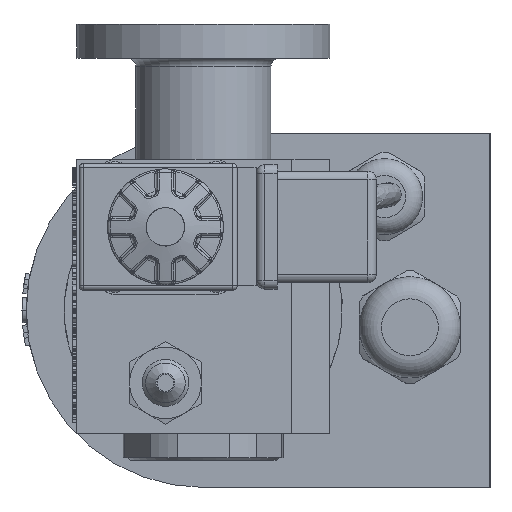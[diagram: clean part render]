
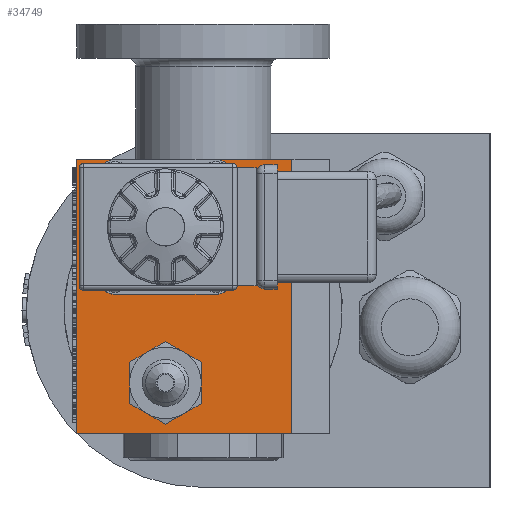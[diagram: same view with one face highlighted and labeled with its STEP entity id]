
A CAD part, left-side view. The second image highlights one B-rep face of the part: STEP entity #34749.
In plain terms, the highlighted planar face has unit normal (-1, 0, 0).
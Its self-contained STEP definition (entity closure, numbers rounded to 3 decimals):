
#1386=CIRCLE('',#36742,3.975);
#1390=CIRCLE('',#36748,3.975);
#1394=CIRCLE('',#36754,3.975);
#1398=CIRCLE('',#36760,3.975);
#1469=CIRCLE('',#36890,8.5);
#1470=CIRCLE('',#36891,8.5);
#1471=CIRCLE('',#36892,8.5);
#1472=CIRCLE('',#36893,8.5);
#1473=CIRCLE('',#36894,8.5);
#1474=CIRCLE('',#36895,8.5);
#2617=FACE_BOUND('',#7442,.T.);
#2618=FACE_BOUND('',#7443,.T.);
#3488=PLANE('',#36889);
#5340=FACE_OUTER_BOUND('',#7441,.T.);
#7441=EDGE_LOOP('',(#31474,#31475,#31476,#31477));
#7442=EDGE_LOOP('',(#31478,#31479,#31480,#31481,#31482,#31483));
#7443=EDGE_LOOP('',(#31484,#31485,#31486,#31487,#31488,#31489,#31490,#31491));
#9905=LINE('',#55942,#12719);
#10262=LINE('',#65708,#13076);
#10264=LINE('',#65722,#13078);
#10266=LINE('',#65734,#13080);
#10268=LINE('',#65746,#13082);
#10280=LINE('',#66788,#13094);
#10281=LINE('',#66789,#13095);
#10282=LINE('',#66790,#13096);
#12719=VECTOR('',#40696,65.);
#13076=VECTOR('',#43243,24.);
#13078=VECTOR('',#43259,24.);
#13080=VECTOR('',#43273,24.);
#13082=VECTOR('',#43287,24.);
#13094=VECTOR('',#43563,65.);
#13095=VECTOR('',#43564,51.);
#13096=VECTOR('',#43565,51.);
#16555=VERTEX_POINT('',#55932);
#16559=VERTEX_POINT('',#55940);
#17307=VERTEX_POINT('',#65706);
#17308=VERTEX_POINT('',#65707);
#17311=VERTEX_POINT('',#65715);
#17313=VERTEX_POINT('',#65721);
#17315=VERTEX_POINT('',#65727);
#17317=VERTEX_POINT('',#65733);
#17319=VERTEX_POINT('',#65739);
#17321=VERTEX_POINT('',#65745);
#17382=VERTEX_POINT('',#66786);
#17383=VERTEX_POINT('',#66787);
#17384=VERTEX_POINT('',#66791);
#17385=VERTEX_POINT('',#66792);
#17386=VERTEX_POINT('',#66794);
#17387=VERTEX_POINT('',#66796);
#17388=VERTEX_POINT('',#66798);
#17389=VERTEX_POINT('',#66800);
#20717=EDGE_CURVE('',#16555,#16559,#9905,.T.);
#21994=EDGE_CURVE('',#17307,#17308,#10262,.T.);
#21998=EDGE_CURVE('',#17308,#17311,#1386,.T.);
#22001=EDGE_CURVE('',#17311,#17313,#10264,.T.);
#22004=EDGE_CURVE('',#17313,#17315,#1390,.T.);
#22007=EDGE_CURVE('',#17315,#17317,#10266,.T.);
#22010=EDGE_CURVE('',#17317,#17319,#1394,.T.);
#22013=EDGE_CURVE('',#17319,#17321,#10268,.T.);
#22016=EDGE_CURVE('',#17321,#17307,#1398,.T.);
#22143=EDGE_CURVE('',#17382,#17383,#10280,.T.);
#22144=EDGE_CURVE('',#17382,#16555,#10281,.T.);
#22145=EDGE_CURVE('',#16559,#17383,#10282,.T.);
#22146=EDGE_CURVE('',#17384,#17385,#1469,.T.);
#22147=EDGE_CURVE('',#17385,#17386,#1470,.T.);
#22148=EDGE_CURVE('',#17386,#17387,#1471,.T.);
#22149=EDGE_CURVE('',#17387,#17388,#1472,.T.);
#22150=EDGE_CURVE('',#17388,#17389,#1473,.T.);
#22151=EDGE_CURVE('',#17389,#17384,#1474,.T.);
#31474=ORIENTED_EDGE('',*,*,#22143,.F.);
#31475=ORIENTED_EDGE('',*,*,#22144,.T.);
#31476=ORIENTED_EDGE('',*,*,#20717,.T.);
#31477=ORIENTED_EDGE('',*,*,#22145,.T.);
#31478=ORIENTED_EDGE('',*,*,#22146,.T.);
#31479=ORIENTED_EDGE('',*,*,#22147,.T.);
#31480=ORIENTED_EDGE('',*,*,#22148,.T.);
#31481=ORIENTED_EDGE('',*,*,#22149,.T.);
#31482=ORIENTED_EDGE('',*,*,#22150,.T.);
#31483=ORIENTED_EDGE('',*,*,#22151,.T.);
#31484=ORIENTED_EDGE('',*,*,#21994,.T.);
#31485=ORIENTED_EDGE('',*,*,#21998,.T.);
#31486=ORIENTED_EDGE('',*,*,#22001,.T.);
#31487=ORIENTED_EDGE('',*,*,#22004,.T.);
#31488=ORIENTED_EDGE('',*,*,#22007,.T.);
#31489=ORIENTED_EDGE('',*,*,#22010,.T.);
#31490=ORIENTED_EDGE('',*,*,#22013,.T.);
#31491=ORIENTED_EDGE('',*,*,#22016,.T.);
#34749=ADVANCED_FACE('',(#5340,#2617,#2618),#3488,.T.);
#36742=AXIS2_PLACEMENT_3D('',#65716,#43251,#43252);
#36748=AXIS2_PLACEMENT_3D('',#65728,#43265,#43266);
#36754=AXIS2_PLACEMENT_3D('',#65740,#43279,#43280);
#36760=AXIS2_PLACEMENT_3D('',#65751,#43293,#43294);
#36889=AXIS2_PLACEMENT_3D('',#66785,#43561,#43562);
#36890=AXIS2_PLACEMENT_3D('',#66793,#43566,#43567);
#36891=AXIS2_PLACEMENT_3D('',#66795,#43568,#43569);
#36892=AXIS2_PLACEMENT_3D('',#66797,#43570,#43571);
#36893=AXIS2_PLACEMENT_3D('',#66799,#43572,#43573);
#36894=AXIS2_PLACEMENT_3D('',#66801,#43574,#43575);
#36895=AXIS2_PLACEMENT_3D('',#66802,#43576,#43577);
#40696=DIRECTION('',(0.,0.,-1.));
#43243=DIRECTION('',(0.,0.,1.));
#43251=DIRECTION('center_axis',(1.,0.,0.));
#43252=DIRECTION('ref_axis',(0.,0.,-1.));
#43259=DIRECTION('',(0.,-1.,0.));
#43265=DIRECTION('center_axis',(1.,0.,0.));
#43266=DIRECTION('ref_axis',(0.,0.,-1.));
#43273=DIRECTION('',(0.,0.,-1.));
#43279=DIRECTION('center_axis',(1.,0.,0.));
#43280=DIRECTION('ref_axis',(0.,0.,-1.));
#43287=DIRECTION('',(0.,1.,0.));
#43293=DIRECTION('center_axis',(1.,0.,0.));
#43294=DIRECTION('ref_axis',(0.,0.,-1.));
#43561=DIRECTION('center_axis',(-1.,0.,0.));
#43562=DIRECTION('ref_axis',(0.,0.,1.));
#43563=DIRECTION('',(0.,0.,-1.));
#43564=DIRECTION('',(0.,1.,0.));
#43565=DIRECTION('',(0.,-1.,0.));
#43566=DIRECTION('center_axis',(1.,0.,0.));
#43567=DIRECTION('ref_axis',(0.,0.,
1.));
#43568=DIRECTION('center_axis',(1.,0.,0.));
#43569=DIRECTION('ref_axis',(0.,0.,
1.));
#43570=DIRECTION('center_axis',(1.,0.,0.));
#43571=DIRECTION('ref_axis',(0.,0.,
1.));
#43572=DIRECTION('center_axis',(1.,0.,0.));
#43573=DIRECTION('ref_axis',(0.,0.,
1.));
#43574=DIRECTION('center_axis',(1.,0.,0.));
#43575=DIRECTION('ref_axis',(0.,0.,
1.));
#43576=DIRECTION('center_axis',(1.,0.,0.));
#43577=DIRECTION('ref_axis',(0.,0.,
1.));
#55932=CARTESIAN_POINT('',(-28.,59.5,65.));
#55940=CARTESIAN_POINT('',(-28.,59.5,0.));
#55942=CARTESIAN_POINT('',(-28.,59.5,65.));
#65706=CARTESIAN_POINT('',(-28.,54.475,37.));
#65707=CARTESIAN_POINT('',(-28.,54.475,61.));
#65708=CARTESIAN_POINT('',(-28.,54.475,36.52));
#65715=CARTESIAN_POINT('',(-28.,50.5,64.975));
#65716=CARTESIAN_POINT('Origin',(-28.,50.5,61.));
#65721=CARTESIAN_POINT('',(-28.,26.5,64.975));
#65722=CARTESIAN_POINT('',(-28.,50.98,64.975));
#65727=CARTESIAN_POINT('',(-28.,22.525,61.));
#65728=CARTESIAN_POINT('Origin',(-28.,26.5,61.));
#65733=CARTESIAN_POINT('',(-28.,22.525,37.));
#65734=CARTESIAN_POINT('',(-28.,22.525,61.48));
#65739=CARTESIAN_POINT('',(-28.,26.5,33.025));
#65740=CARTESIAN_POINT('Origin',(-28.,26.5,37.));
#65745=CARTESIAN_POINT('',(-28.,50.5,33.025));
#65746=CARTESIAN_POINT('',(-28.,26.02,33.025));
#65751=CARTESIAN_POINT('Origin',(-28.,50.5,37.));
#66785=CARTESIAN_POINT('Origin',(-28.,29.5,32.5));
#66786=CARTESIAN_POINT('',(-28.,8.5,65.));
#66787=CARTESIAN_POINT('',(-28.,8.5,0.));
#66788=CARTESIAN_POINT('',(-28.,8.5,32.5));
#66789=CARTESIAN_POINT('',(-28.,-0.5,65.));
#66790=CARTESIAN_POINT('',(-28.,59.5,0.));
#66791=CARTESIAN_POINT('',(-28.,42.75,4.639));
#66792=CARTESIAN_POINT('',(-28.,47.,12.));
#66793=CARTESIAN_POINT('Origin',(-28.,38.5,12.));
#66794=CARTESIAN_POINT('',(-28.,42.75,19.361));
#66795=CARTESIAN_POINT('Origin',(-28.,38.5,12.));
#66796=CARTESIAN_POINT('',(-28.,34.25,19.361));
#66797=CARTESIAN_POINT('Origin',(-28.,38.5,12.));
#66798=CARTESIAN_POINT('',(-28.,30.,12.));
#66799=CARTESIAN_POINT('Origin',(-28.,38.5,12.));
#66800=CARTESIAN_POINT('',(-28.,34.25,4.639));
#66801=CARTESIAN_POINT('Origin',(-28.,38.5,12.));
#66802=CARTESIAN_POINT('Origin',(-28.,38.5,12.));
